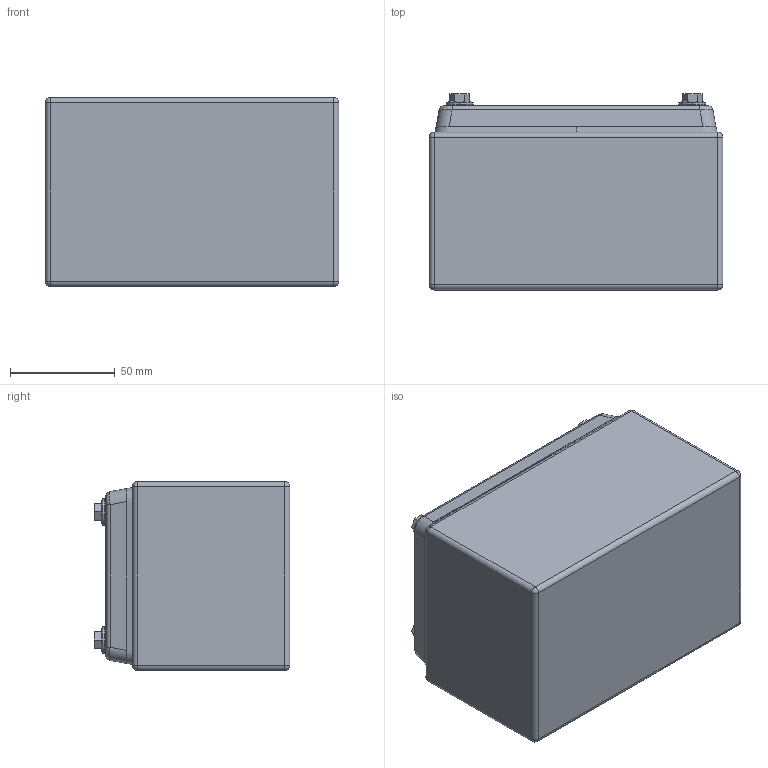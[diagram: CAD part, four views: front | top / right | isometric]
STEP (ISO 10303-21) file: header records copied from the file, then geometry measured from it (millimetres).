
FILE_DESCRIPTION (( 'STEP AP203' ), '1' );
FILE_NAME ('PEH02-316A.STEP', '2021-02-23T15:21:48', ( '' ), ( '' ), 'SwSTEP 2.0', 'SolidWorks 2020', '' );
FILE_SCHEMA (( 'CONFIG_CONTROL_DESIGN' ));
Length unit declared in the file: millimetre
Products named in the file (1): PEH02-316A
Bounding box: 140 x 93.3 x 90 mm (x, y, z)
Volume: 120618.9 mm3; surface area: 160141.7 mm2
Topology: 20 solids, 20 shells, 483 faces, 1177 edges, 760 vertices
Faces by surface type: plane 252, cylinder 168, bspline 27, cone 20, sphere 16
Entity records: 16680 total; most frequent: CARTESIAN_POINT 5132, DIRECTION 2398, ORIENTED_EDGE 2322, EDGE_CURVE 1161, AXIS2_PLACEMENT_3D 842, VERTEX_POINT 760, VECTOR 714, LINE 714
